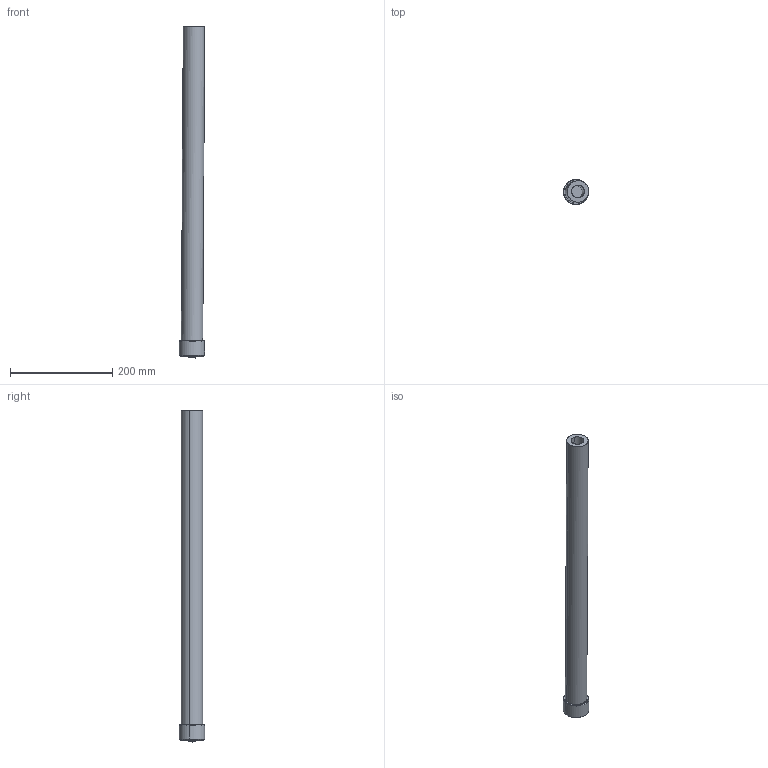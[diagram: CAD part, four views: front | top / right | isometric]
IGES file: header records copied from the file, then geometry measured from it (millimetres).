
Start section: SolidWorks IGES file using analytic representation for surfaces
Global section: file name: C:\Data\SAP_DOC_20200123_IRB390\Lättmodeller_IRB390\Final_4axis\IRB390_15kg_1300_STD_rev0_IGES_J\IRB390_X_1300_STD_4D_LT_00.IGS; native system: SolidWorks 2018; preprocessor: SolidWorks 2018; author: sestdan2; date: 200204.155050; units: millimetre
Bounding box: 50.09 x 49.93 x 648.79 mm (x, y, z)
Surface area: 139562.3 mm2 (no closed solid volume)
Topology: 0 solids, 0 shells, 17 faces, 432 edges, 432 vertices
Faces by surface type: revolution 12, bspline 5
